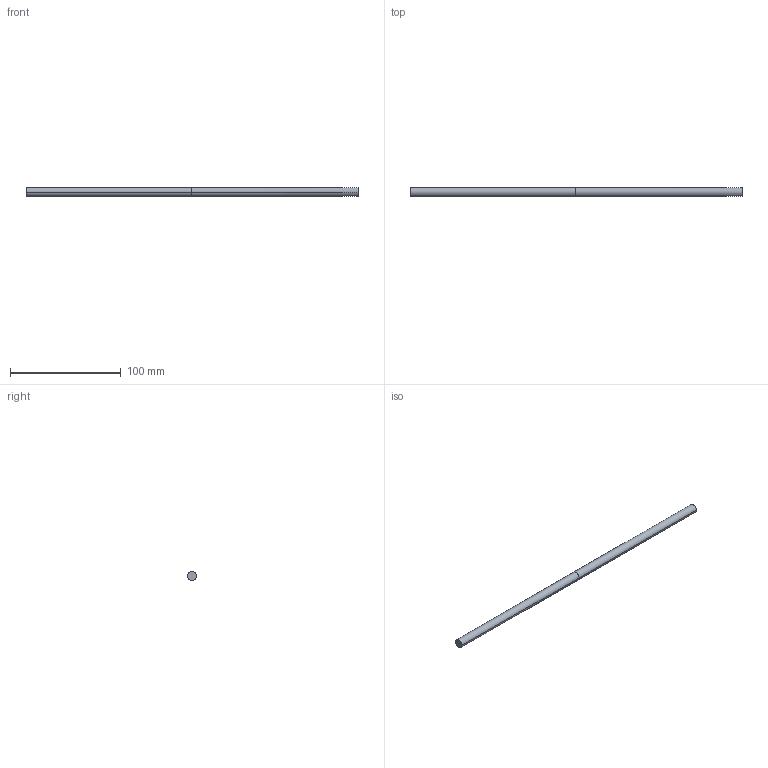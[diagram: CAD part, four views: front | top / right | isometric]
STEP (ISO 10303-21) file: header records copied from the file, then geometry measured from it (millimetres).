
FILE_DESCRIPTION(/* description */ (''),/* implementation_level */ '2;1');
FILE_NAME(/* name */ 'GUIALI~4',/* time_stamp */ '2019-04-01T21:29:52-03:00',/* author */ (''),/* organization */ (''),/* preprocessor_version */ 'ST-DEVELOPER v16.5',/* originating_system */ '',/* authorisation */ '');
FILE_SCHEMA (('AUTOMOTIVE_DESIGN'));
Length unit declared in the file: millimetre
Products named in the file (1): Document
Bounding box: 300 x 8 x 7.99 mm (x, y, z)
Volume: 15125.7 mm3; surface area: 7651.3 mm2
Topology: 1 solids, 1 shells, 6 faces, 10 edges, 6 vertices
Faces by surface type: bspline 4, plane 2
Entity records: 173 total; most frequent: CARTESIAN_POINT 88, ORIENTED_EDGE 20, EDGE_CURVE 10, ADVANCED_FACE 6, FACE_OUTER_BOUND 6, EDGE_LOOP 6, VERTEX_POINT 6, DIRECTION 6
